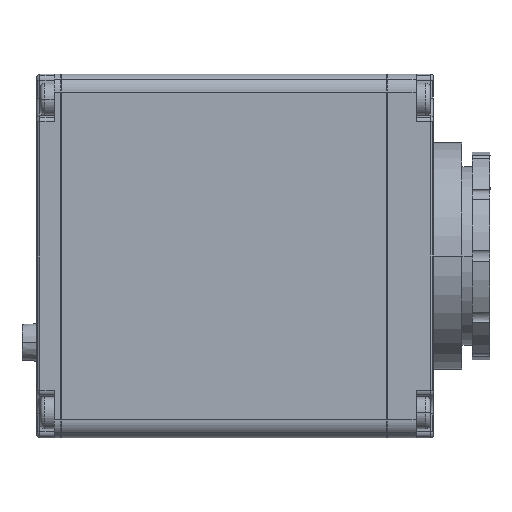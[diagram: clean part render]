
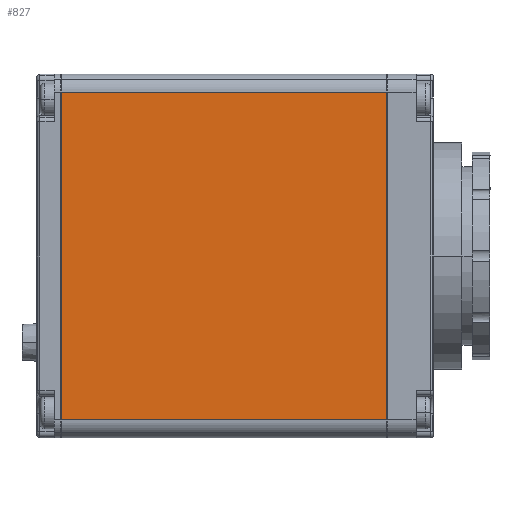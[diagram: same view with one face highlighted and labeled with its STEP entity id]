
A CAD part, left-side view. The second image highlights one B-rep face of the part: STEP entity #827.
In plain terms, the highlighted planar face has unit normal (-1, 0, 0).
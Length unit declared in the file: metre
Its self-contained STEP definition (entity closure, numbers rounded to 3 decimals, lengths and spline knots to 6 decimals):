
#827=ADVANCED_FACE('0:43631',(#2477),#2478,.T.);
#2477=FACE_OUTER_BOUND('',#5899,.T.);
#2478=PLANE('',#5900);
#5899=EDGE_LOOP('',(#11968,#11969,#11970,#11971));
#5900=AXIS2_PLACEMENT_3D('',#11972,#11973,#11974);
#11968=ORIENTED_EDGE('',*,*,#14594,.F.);
#11969=ORIENTED_EDGE('',*,*,#15487,.T.);
#11970=ORIENTED_EDGE('',*,*,#14603,.F.);
#11971=ORIENTED_EDGE('',*,*,#15483,.F.);
#11972=CARTESIAN_POINT('',(-0.0305,0.00535,0.));
#11973=DIRECTION('',(-1.0,0.,0.));
#11974=DIRECTION('',(0.,-1.0,0.));
#14594=EDGE_CURVE('0:44921',#17931,#17933,#17934,.T.);
#14603=EDGE_CURVE('0:44957',#17946,#17948,#17949,.T.);
#15483=EDGE_CURVE('0:47972',#17933,#17946,#19219,.T.);
#15487=EDGE_CURVE('0:47984',#17931,#17948,#19223,.T.);
#17931=VERTEX_POINT('',#22496);
#17933=VERTEX_POINT('',#22498);
#17934=LINE('',#22499,#22500);
#17946=VERTEX_POINT('',#22514);
#17948=VERTEX_POINT('',#22516);
#17949=LINE('',#22517,#22518);
#19219=LINE('',#24589,#24590);
#19223=LINE('',#24597,#24598);
#22496=CARTESIAN_POINT('',(-0.0305,-0.02195,0.003));
#22498=CARTESIAN_POINT('',(-0.0305,0.03265,0.003));
#22499=CARTESIAN_POINT('',(-0.0305,0.0325,0.003));
#22500=VECTOR('',#27637,1.0);
#22514=CARTESIAN_POINT('',(-0.0305,0.03265,0.058));
#22516=CARTESIAN_POINT('',(-0.0305,-0.02195,0.058));
#22517=CARTESIAN_POINT('',(-0.0305,0.0325,0.058));
#22518=VECTOR('',#27658,1.0);
#24589=CARTESIAN_POINT('',(-0.0305,0.03265,0.));
#24590=VECTOR('',#29106,1.0);
#24597=CARTESIAN_POINT('',(-0.0305,-0.02195,0.));
#24598=VECTOR('',#29110,1.0);
#27637=DIRECTION('',(0.,1.0,0.));
#27658=DIRECTION('',(0.,-1.0,0.));
#29106=DIRECTION('',(0.,0.,1.0));
#29110=DIRECTION('',(0.,0.,1.0));
